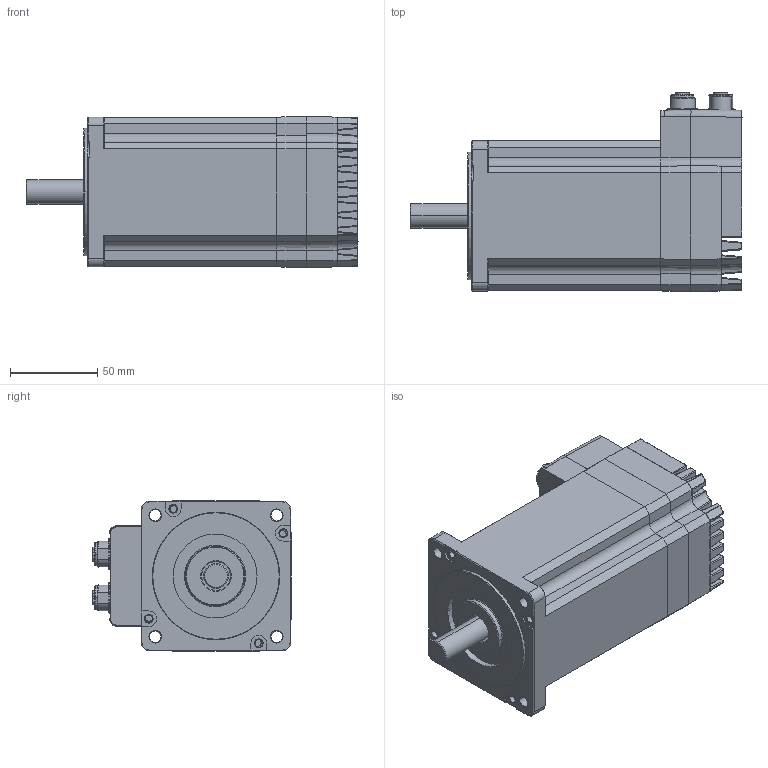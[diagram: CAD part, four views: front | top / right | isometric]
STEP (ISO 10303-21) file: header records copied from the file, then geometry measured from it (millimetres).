
FILE_DESCRIPTION((''),'2;1');
FILE_NAME('STEPPERASSY_ASM','2023-07-11T21:00:31',('KaviarasanNagaraj'),(''),'CREO PARAMETRIC BY PTC INC, 2021063','CREO PARAMETRIC BY PTC INC, 2021063','');
FILE_SCHEMA(('AUTOMOTIVE_DESIGN { 1 0 10303 214 1 1 1 1 }'));
Length unit declared in the file: millimetre
Products named in the file (10): M34_CON_R1; M34_CON_R2; MIS34_F_CONNECTOR; M34_S14; N34PIN1; N34PIN2; N34PIN3; N34PIN4; M34_ASM; STEPPERASSY_ASM
Assembly tree (9 placements, depth 3):
  STEPPERASSY_ASM
    M34_ASM
      M34_CON_R1
      M34_CON_R2
      MIS34_F_CONNECTOR
      M34_S14
      N34PIN1
      N34PIN2
      N34PIN3
      N34PIN4
Bounding box: 190.1 x 113.9 x 86.41 mm (x, y, z)
Volume: 1046223.7 mm3; surface area: 130585.5 mm2
Topology: 8 solids, 9 shells, 1222 faces, 3262 edges, 2013 vertices
Faces by surface type: cylinder 492, plane 480, sphere 109, cone 93, bspline 36, extrusion 8, torus 4
Entity records: 54748 total; most frequent: CARTESIAN_POINT 10181, DIRECTION 6671, ORIENTED_EDGE 6292, PRESENTATION_STYLE_ASSIGNMENT 3384, STYLED_ITEM 3188, CURVE_STYLE 3180, EDGE_CURVE 3146, AXIS2_PLACEMENT_3D 2502
